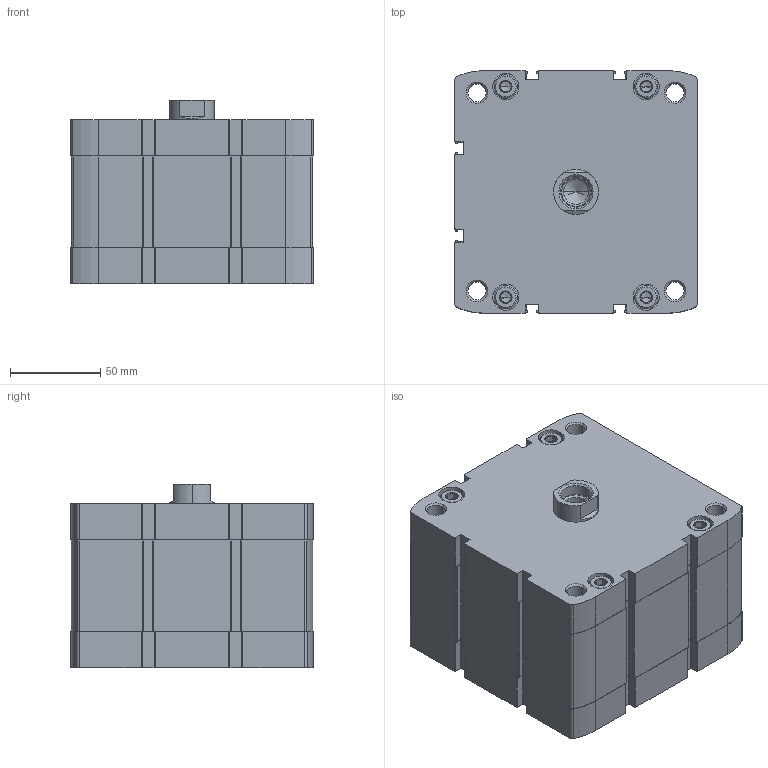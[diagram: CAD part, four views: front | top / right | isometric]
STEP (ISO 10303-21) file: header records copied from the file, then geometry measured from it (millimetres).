
FILE_DESCRIPTION (( 'STEP AP203' ), '1' );
FILE_NAME ('CCN125-10F.STEP', '2020-06-05T19:27:29', ( '' ), ( '' ), 'SwSTEP 2.0', 'SolidWorks 2019', '' );
FILE_SCHEMA (( 'CONFIG_CONTROL_DESIGN' ));
Length unit declared in the file: millimetre
Products named in the file (1): CCN125-10F
Bounding box: 134.6 x 134.6 x 102 mm (x, y, z)
Volume: 1455368.7 mm3; surface area: 193162.3 mm2
Topology: 2 solids, 2 shells, 535 faces, 1370 edges, 861 vertices
Faces by surface type: plane 267, cylinder 194, cone 74
Entity records: 17215 total; most frequent: CARTESIAN_POINT 3931, DIRECTION 2876, ORIENTED_EDGE 2704, EDGE_CURVE 1352, AXIS2_PLACEMENT_3D 1054, VERTEX_POINT 861, VECTOR 768, LINE 768
